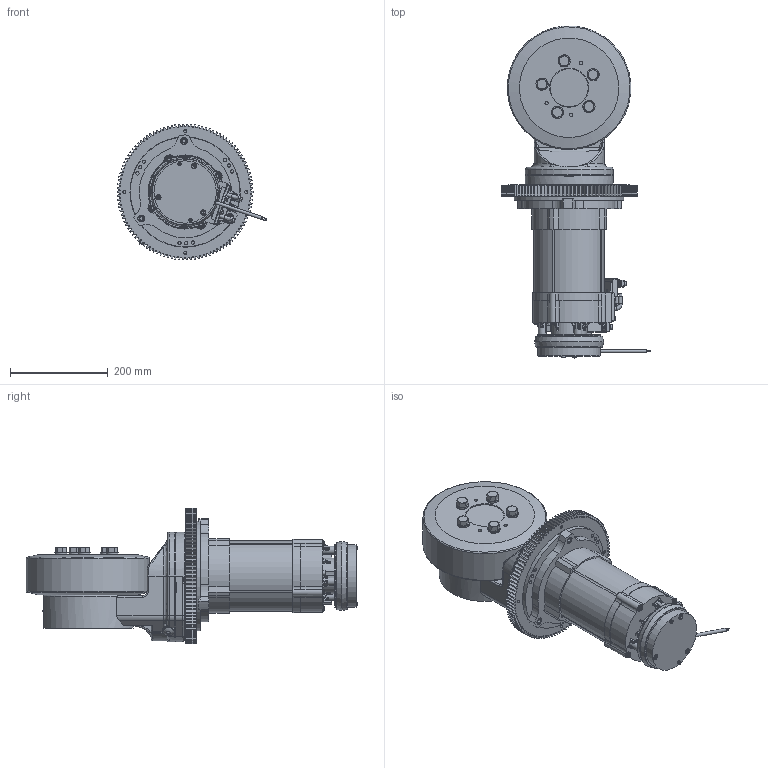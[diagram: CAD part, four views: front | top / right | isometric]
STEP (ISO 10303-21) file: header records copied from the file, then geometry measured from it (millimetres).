
FILE_DESCRIPTION (( 'STEP AP214' ), '1' );
FILE_NAME ('TEC250P252A30-19-2V-B.STEP', '2024-10-14T06:46:17', ( 'Admin' ), ( '' ), 'SwSTEP 2.0', 'SolidWorks 2021', '' );
FILE_SCHEMA (( 'AUTOMOTIVE_DESIGN' ));
Length unit declared in the file: millimetre
Products named in the file (1): TEC250P252A30-19-2V-B
Bounding box: 306.68 x 680.86 x 278.44 mm (x, y, z)
Surface area: 962156.4 mm2 (no closed solid volume)
Topology: 0 solids, 106 shells, 1160 faces, 3556 edges, 2418 vertices
Faces by surface type: cylinder 401, plane 401, bspline 190, cone 89, torus 68, sphere 11
Full cylindrical faces by diameter (mm): 2 x2, 6 x13, 6.1 x4, 6.2 x4, 6.5 x4, 6.6 x4, 6.8 x22, 7 x8, 8 x9, 8.5 x7, 9 x3, 9.2 x1, 9.3 x4, 10 x5, 11 x1, 12 x6, 12.3 x3, 14 x5, 15 x2, 16 x9, 18 x3, 24 x3, 25 x5, 80 x1, 95 x1, 100 x1, 128 x2, 130 x1, 154 x1, 174 x1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
Entity records: 94935 total; most frequent: CARTESIAN_POINT 53052, DIRECTION 5693, ORIENTED_EDGE 5587, EDGE_CURVE 3314, VERTEX_POINT 2368, AXIS2_PLACEMENT_3D 2260, EDGE_LOOP 1562, FACE_OUTER_BOUND 1322
